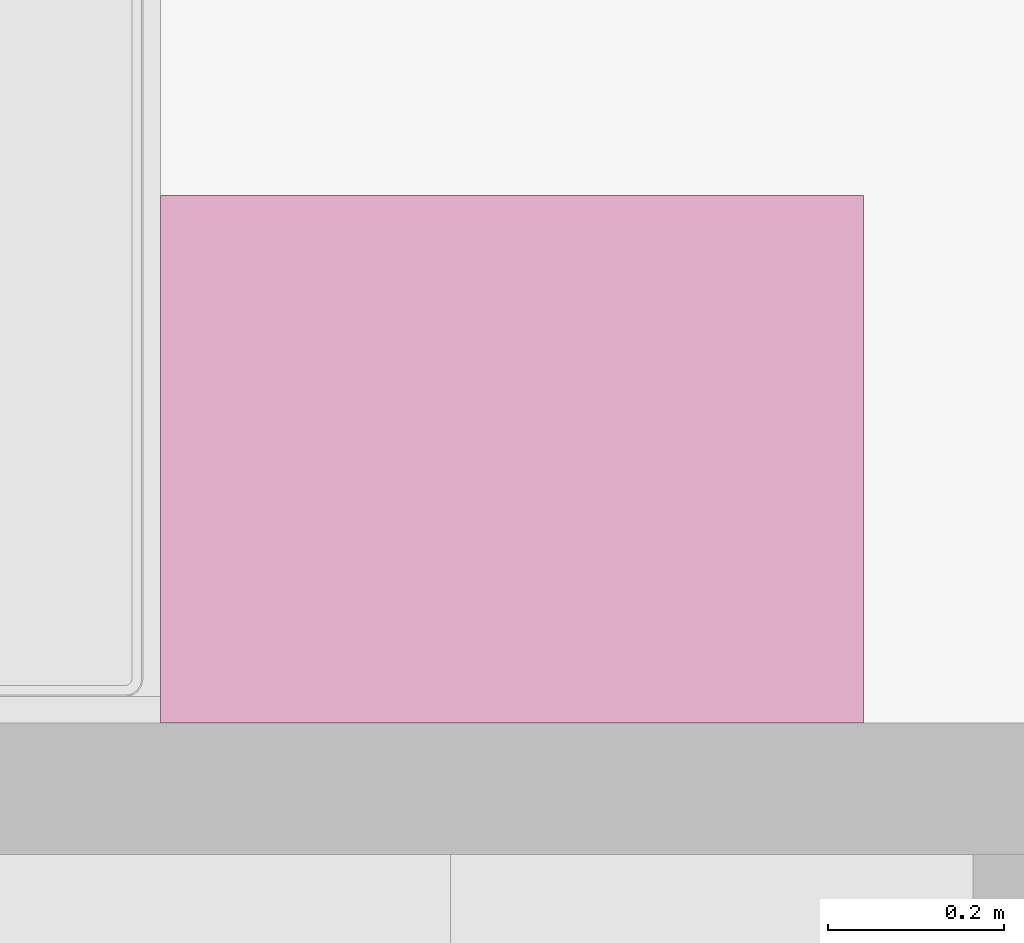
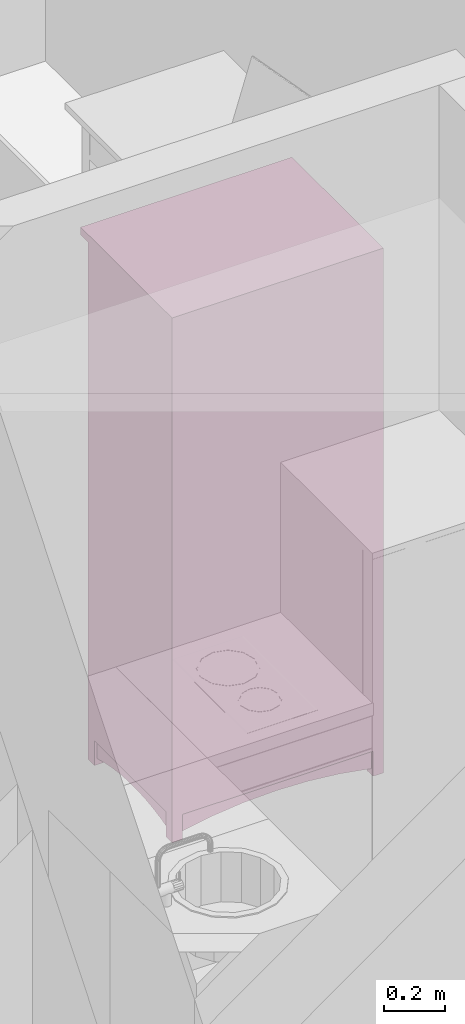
# One storey, part 95 of 165: 1 furnishing.
"""IFC2X3 building model written with IfcOpenShell, lengths in millimetres."""

from ifc_helpers import new_model, entity, si_unit, converted_unit, money_unit, direction, frame, origin_with_axes, place, context, subcontext, project, spatial, faceted_brep, source, transform, mapped, material, material_list, type_object, element, save


model = new_model("IFC2X3")

# Units and contexts
model_context = context("Model", 3, precision=1e-05, world=origin_with_axes(), true_north=direction((0.0, 1.0)))
body_context = subcontext(model_context, "Body", "Model", "MODEL_VIEW")
ifc_project = project(units=[si_unit("LENGTHUNIT", "METRE", prefix="MILLI"), si_unit("AREAUNIT", "SQUARE_METRE"), si_unit("VOLUMEUNIT", "CUBIC_METRE"), converted_unit("PLANEANGLEUNIT", "DEGREE", entity("IfcPlaneAngleMeasure", 0.0174532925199), si_unit("PLANEANGLEUNIT", "RADIAN"), dimensions=[0, 0, 0, 0, 0, 0, 0]), si_unit("SOLIDANGLEUNIT", "STERADIAN"), money_unit("USD"), converted_unit("TIMEUNIT", "Year", entity("IfcTimeMeasure", 31556926.0), si_unit("TIMEUNIT", "SECOND"), dimensions=[0, 0, 0, 0, 0, 0, 0]), si_unit("MASSUNIT", "GRAM"), si_unit("THERMODYNAMICTEMPERATUREUNIT", "DEGREE_CELSIUS"), si_unit("LUMINOUSINTENSITYUNIT", "LUMEN")], contexts=[model_context])

# Site, building, storey
site_placement = place(None, origin_with_axes())
site = spatial("IfcSite", under=ifc_project, at=site_placement, Name="Site", CompositionType="ELEMENT")
building_placement = place(site_placement, origin_with_axes())
building = spatial("IfcBuilding", under=site, at=building_placement, Name="Building", CompositionType="ELEMENT")
storey_placement = place(building_placement, frame((0.0, 0.0, 6300.0), z_axis=(0.0, 0.0, 1.0), x_axis=(1.0, 0.0, 0.0)))
storey = spatial("IfcBuildingStorey", under=building, at=storey_placement, Name="4KORRUS", CompositionType="ELEMENT", Elevation=6300.0)

# Furnishing
ifc_material = material(Name="Background")
ifc_material_list = material_list([ifc_material])
furnishing_element_type = type_object("IfcFurnishingElementType", Name="Cupboard 19")
shared_shape = source(origin_with_axes(), body_context, "Body", "Brep", [
    faceted_brep([(780.0, 600.0, 120.0), (780.0, 600.0, 2050.0), (780.0, 580.0, 2050.0), (780.0, 580.0, 120.0), (20.0, 600.0, 120.0), (20.0, 600.0, 2050.0), (20.0, 580.0, 2050.0), (20.0, 580.0, 120.0)], [[[0, 1, 2, 3]], [[4, 5, 1, 0]], [[1, 5, 6, 2]], [[3, 2, 6, 7]], [[0, 3, 7, 4]], [[7, 6, 5, 4]]]),
    faceted_brep([(0.0, 50.0, 100.0), (0.0, 600.0, 100.0), (20.0, 600.0, 100.0), (20.0, 50.0, 100.0), (0.0, 50.0, 2070.0), (0.0, 600.0, 2070.0), (20.0, 600.0, 2070.0), (20.0, 50.0, 2070.0)], [[[0, 1, 2, 3]], [[0, 4, 5, 1]], [[1, 5, 6, 2]], [[2, 6, 7, 3]], [[3, 7, 4, 0]], [[7, 6, 5, 4]]]),
    faceted_brep([(780.0, 50.0, 100.0), (780.0, 600.0, 100.0), (800.0, 600.0, 100.0), (800.0, 50.0, 100.0), (780.0, 50.0, 2070.0), (780.0, 600.0, 2070.0), (800.0, 600.0, 2070.0), (800.0, 50.0, 2070.0)], [[[0, 1, 2, 3]], [[0, 4, 5, 1]], [[1, 5, 6, 2]], [[2, 6, 7, 3]], [[3, 7, 4, 0]], [[7, 6, 5, 4]]]),
    faceted_brep([(20.0, 50.0, 100.0), (20.0, 600.0, 100.0), (780.0, 600.0, 100.0), (780.0, 50.0, 100.0), (20.0, 50.0, 120.0), (20.0, 600.0, 120.0), (780.0, 600.0, 120.0), (780.0, 50.0, 120.0)], [[[0, 1, 2, 3]], [[0, 4, 5, 1]], [[1, 5, 6, 2]], [[2, 6, 7, 3]], [[3, 7, 4, 0]], [[7, 6, 5, 4]]]),
    faceted_brep([(20.0, 50.0, 2050.0), (20.0, 600.0, 2050.0), (780.0, 600.0, 2050.0), (780.0, 50.0, 2050.0), (20.0, 50.0, 2070.0), (20.0, 600.0, 2070.0), (780.0, 600.0, 2070.0), (780.0, 50.0, 2070.0)], [[[0, 1, 2, 3]], [[0, 4, 5, 1]], [[1, 5, 6, 2]], [[2, 6, 7, 3]], [[3, 7, 4, 0]], [[7, 6, 5, 4]]]),
    faceted_brep([(0.0, 600.0, 2070.0), (0.0, 0.0, 2070.0), (0.0, 0.0, 2100.0), (0.0, 600.0, 2100.0), (800.0, 600.0, 2070.0), (800.0, 0.0, 2070.0), (800.0, 0.0, 2100.0), (800.0, 600.0, 2100.0)], [[[0, 1, 2, 3]], [[0, 4, 5, 1]], [[1, 5, 6, 2]], [[3, 2, 6, 7]], [[4, 0, 3, 7]], [[5, 4, 7, 6]]]),
    faceted_brep([(760.0, 590.0, 25.0), (760.0, 570.0, 25.0), (640.962, 570.0, 45.8), (640.962, 590.0, 45.8), (760.0, 590.0, 100.0), (760.0, 570.0, 100.0), (40.0, 570.0, 100.0), (40.0, 570.0, 25.0), (159.038, 570.0, 45.8), (279.23, 570.0, 58.32), (400.0, 570.0, 62.5), (520.77, 570.0, 58.32), (520.77, 590.0, 58.32), (400.0, 590.0, 62.5), (279.23, 590.0, 58.32), (159.038, 590.0, 45.8), (40.0, 590.0, 25.0), (40.0, 590.0, 100.0)], [[[0, 1, 2, 3]], [[4, 5, 1, 0]], [[1, 5, 6, 7, 8, 9, 10, 11, 2]], [[3, 2, 11, 12]], [[0, 3, 12, 13, 14, 15, 16, 17, 4]], [[17, 6, 5, 4]], [[16, 7, 6, 17]], [[15, 8, 7, 16]], [[14, 9, 8, 15]], [[13, 10, 9, 14]], [[12, 11, 10, 13]]]),
    faceted_brep([(760.0, 80.0, 25.0), (760.0, 60.0, 25.0), (640.962, 60.0, 45.8), (640.962, 80.0, 45.8), (760.0, 80.0, 100.0), (760.0, 60.0, 100.0), (40.0, 60.0, 100.0), (40.0, 60.0, 25.0), (159.038, 60.0, 45.8), (279.23, 60.0, 58.32), (400.0, 60.0, 62.5), (520.77, 60.0, 58.32), (520.77, 80.0, 58.32), (400.0, 80.0, 62.5), (279.23, 80.0, 58.32), (159.038, 80.0, 45.8), (40.0, 80.0, 25.0), (40.0, 80.0, 100.0)], [[[0, 1, 2, 3]], [[4, 5, 1, 0]], [[1, 5, 6, 7, 8, 9, 10, 11, 2]], [[3, 2, 11, 12]], [[0, 3, 12, 13, 14, 15, 16, 17, 4]], [[17, 6, 5, 4]], [[16, 7, 6, 17]], [[15, 8, 7, 16]], [[14, 9, 8, 15]], [[13, 10, 9, 14]], [[12, 11, 10, 13]]]),
    faceted_brep([(790.0, 90.0, 25.0), (770.0, 90.0, 25.0), (770.0, 141.266, 38.072), (790.0, 141.266, 38.072), (790.0, 90.0, 100.0), (770.0, 90.0, 100.0), (770.0, 560.0, 100.0), (770.0, 560.0, 25.0), (770.0, 508.734, 38.072), (770.0, 456.752, 47.92), (770.0, 404.257, 54.508), (770.0, 351.453, 57.808), (770.0, 298.547, 57.808), (770.0, 245.743, 54.508), (770.0, 193.248, 47.92), (790.0, 193.248, 47.92), (790.0, 245.743, 54.508), (790.0, 298.547, 57.808), (790.0, 351.453, 57.808), (790.0, 404.257, 54.508), (790.0, 456.752, 47.92), (790.0, 508.734, 38.072), (790.0, 560.0, 25.0), (790.0, 560.0, 100.0)], [[[0, 1, 2, 3]], [[4, 5, 1, 0]], [[1, 5, 6, 7, 8, 9, 10, 11, 12, 13, 14, 2]], [[3, 2, 14, 15]], [[0, 3, 15, 16, 17, 18, 19, 20, 21, 22, 23, 4]], [[23, 6, 5, 4]], [[22, 7, 6, 23]], [[21, 8, 7, 22]], [[20, 9, 8, 21]], [[19, 10, 9, 20]], [[18, 11, 10, 19]], [[17, 12, 11, 18]], [[16, 13, 12, 17]], [[15, 14, 13, 16]]]),
    faceted_brep([(30.0, 90.0, 25.0), (10.0, 90.0, 25.0), (10.0, 141.266, 38.072), (30.0, 141.266, 38.072), (30.0, 90.0, 100.0), (10.0, 90.0, 100.0), (10.0, 560.0, 100.0), (10.0, 560.0, 25.0), (10.0, 508.734, 38.072), (10.0, 456.752, 47.92), (10.0, 404.257, 54.508), (10.0, 351.453, 57.808), (10.0, 298.547, 57.808), (10.0, 245.743, 54.508), (10.0, 193.248, 47.92), (30.0, 193.248, 47.92), (30.0, 245.743, 54.508), (30.0, 298.547, 57.808), (30.0, 351.453, 57.808), (30.0, 404.257, 54.508), (30.0, 456.752, 47.92), (30.0, 508.734, 38.072), (30.0, 560.0, 25.0), (30.0, 560.0, 100.0)], [[[0, 1, 2, 3]], [[4, 5, 1, 0]], [[1, 5, 6, 7, 8, 9, 10, 11, 12, 13, 14, 2]], [[3, 2, 14, 15]], [[0, 3, 15, 16, 17, 18, 19, 20, 21, 22, 23, 4]], [[23, 6, 5, 4]], [[22, 7, 6, 23]], [[21, 8, 7, 22]], [[20, 9, 8, 21]], [[19, 10, 9, 20]], [[18, 11, 10, 19]], [[17, 12, 11, 18]], [[16, 13, 12, 17]], [[15, 14, 13, 16]]]),
    faceted_brep([(760.0, 560.0, 0.0), (760.0, 560.0, 100.0), (760.0, 600.0, 100.0), (760.0, 600.0, 0.0), (800.0, 560.0, 0.0), (800.0, 560.0, 100.0), (800.0, 600.0, 100.0), (800.0, 600.0, 0.0)], [[[0, 1, 2, 3]], [[4, 5, 1, 0]], [[1, 5, 6, 2]], [[3, 2, 6, 7]], [[0, 3, 7, 4]], [[7, 6, 5, 4]]]),
    faceted_brep([(0.0, 560.0, 0.0), (0.0, 560.0, 100.0), (0.0, 600.0, 100.0), (0.0, 600.0, 0.0), (40.0, 560.0, 0.0), (40.0, 560.0, 100.0), (40.0, 600.0, 100.0), (40.0, 600.0, 0.0)], [[[0, 1, 2, 3]], [[4, 5, 1, 0]], [[1, 5, 6, 2]], [[3, 2, 6, 7]], [[0, 3, 7, 4]], [[7, 6, 5, 4]]]),
    faceted_brep([(760.0, 50.0, 0.0), (760.0, 50.0, 100.0), (760.0, 90.0, 100.0), (760.0, 90.0, 0.0), (800.0, 50.0, 0.0), (800.0, 50.0, 100.0), (800.0, 90.0, 100.0), (800.0, 90.0, 0.0)], [[[0, 1, 2, 3]], [[4, 5, 1, 0]], [[1, 5, 6, 2]], [[3, 2, 6, 7]], [[0, 3, 7, 4]], [[7, 6, 5, 4]]]),
    faceted_brep([(0.0, 50.0, 0.0), (0.0, 50.0, 100.0), (0.0, 90.0, 100.0), (0.0, 90.0, 0.0), (40.0, 50.0, 0.0), (40.0, 50.0, 100.0), (40.0, 90.0, 100.0), (40.0, 90.0, 0.0)], [[[0, 1, 2, 3]], [[4, 5, 1, 0]], [[1, 5, 6, 2]], [[3, 2, 6, 7]], [[0, 3, 7, 4]], [[7, 6, 5, 4]]]),
    faceted_brep([(780.0, 580.0, 587.5), (780.0, 580.0, 607.5), (780.0, 50.0, 607.5), (780.0, 50.0, 587.5), (20.0, 580.0, 587.5), (20.0, 580.0, 607.5), (20.0, 50.0, 607.5), (20.0, 50.0, 587.5)], [[[0, 1, 2, 3]], [[4, 5, 1, 0]], [[1, 5, 6, 2]], [[3, 2, 6, 7]], [[0, 3, 7, 4]], [[7, 6, 5, 4]]]),
    faceted_brep([(780.0, 580.0, 1075.0), (780.0, 580.0, 1095.0), (780.0, 50.0, 1095.0), (780.0, 50.0, 1075.0), (20.0, 580.0, 1075.0), (20.0, 580.0, 1095.0), (20.0, 50.0, 1095.0), (20.0, 50.0, 1075.0)], [[[0, 1, 2, 3]], [[4, 5, 1, 0]], [[1, 5, 6, 2]], [[3, 2, 6, 7]], [[0, 3, 7, 4]], [[7, 6, 5, 4]]]),
    faceted_brep([(780.0, 580.0, 1562.5), (780.0, 580.0, 1582.5), (780.0, 50.0, 1582.5), (780.0, 50.0, 1562.5), (20.0, 580.0, 1562.5), (20.0, 580.0, 1582.5), (20.0, 50.0, 1582.5), (20.0, 50.0, 1562.5)], [[[0, 1, 2, 3]], [[4, 5, 1, 0]], [[1, 5, 6, 2]], [[3, 2, 6, 7]], [[0, 3, 7, 4]], [[7, 6, 5, 4]]]),
    faceted_brep([(789.5, 50.0, 110.5), (400.5, 50.0, 110.5), (400.5, 50.0, 2059.5), (789.5, 50.0, 2059.5), (789.5, 40.0, 110.5), (400.5, 40.0, 110.5), (400.5, 40.0, 2059.5), (789.5, 40.0, 2059.5), (779.5, 30.0, 120.5), (410.5, 30.0, 120.5), (410.5, 30.0, 2049.5), (779.5, 30.0, 2049.5)], [[[0, 1, 2, 3]], [[0, 4, 5, 1]], [[1, 5, 6, 2]], [[2, 6, 7, 3]], [[3, 7, 4, 0]], [[4, 8, 9, 5]], [[5, 9, 10, 6]], [[6, 10, 11, 7]], [[7, 11, 8, 4]], [[10, 9, 8, 11]]]),
    faceted_brep([(399.5, 50.0, 110.5), (10.5, 50.0, 110.5), (10.5, 50.0, 2059.5), (399.5, 50.0, 2059.5), (399.5, 40.0, 110.5), (10.5, 40.0, 110.5), (10.5, 40.0, 2059.5), (399.5, 40.0, 2059.5), (389.5, 30.0, 120.5), (20.5, 30.0, 120.5), (20.5, 30.0, 2049.5), (389.5, 30.0, 2049.5)], [[[0, 1, 2, 3]], [[0, 4, 5, 1]], [[1, 5, 6, 2]], [[2, 6, 7, 3]], [[3, 7, 4, 0]], [[4, 8, 9, 5]], [[5, 9, 10, 6]], [[6, 10, 11, 7]], [[7, 11, 8, 4]], [[10, 9, 8, 11]]]),
    faceted_brep([(339.608, 30.0, 954.0), (338.0, 30.0, 960.0), (339.608, 30.0, 966.0), (344.0, 30.0, 970.392), (350.0, 30.0, 972.0), (356.0, 30.0, 970.392), (360.392, 30.0, 966.0), (362.0, 30.0, 960.0), (360.392, 30.0, 954.0), (356.0, 30.0, 949.608), (350.0, 30.0, 948.0), (344.0, 30.0, 949.608), (339.608, 5.0, 954.0), (338.0, 5.0, 960.0), (339.608, 5.0, 966.0), (344.0, 5.0, 970.392), (350.0, 5.0, 972.0), (356.0, 5.0, 970.392), (360.392, 5.0, 966.0), (362.0, 5.0, 960.0), (360.392, 5.0, 954.0), (356.0, 5.0, 949.608), (350.0, 5.0, 948.0), (344.0, 5.0, 949.608)], [[[0, 1, 2, 3, 4, 5, 6, 7, 8, 9, 10, 11]], [[0, 12, 13, 1]], [[1, 13, 14, 2]], [[2, 14, 15, 3]], [[3, 15, 16, 4]], [[4, 16, 17, 5]], [[5, 17, 18, 6]], [[6, 18, 19, 7]], [[7, 19, 20, 8]], [[8, 20, 21, 9]], [[9, 21, 22, 10]], [[10, 22, 23, 11]], [[11, 23, 12, 0]], [[12, 23, 22, 21, 20, 19, 18, 17, 16, 15, 14, 13]]]),
    faceted_brep([(460.392, 30.0, 954.0), (456.0, 30.0, 949.608), (450.0, 30.0, 948.0), (444.0, 30.0, 949.608), (439.608, 30.0, 954.0), (438.0, 30.0, 960.0), (439.608, 30.0, 966.0), (444.0, 30.0, 970.392), (450.0, 30.0, 972.0), (456.0, 30.0, 970.392), (460.392, 30.0, 966.0), (462.0, 30.0, 960.0), (460.392, 5.0, 954.0), (456.0, 5.0, 949.608), (450.0, 5.0, 948.0), (444.0, 5.0, 949.608), (439.608, 5.0, 954.0), (438.0, 5.0, 960.0), (439.608, 5.0, 966.0), (444.0, 5.0, 970.392), (450.0, 5.0, 972.0), (456.0, 5.0, 970.392), (460.392, 5.0, 966.0), (462.0, 5.0, 960.0)], [[[0, 1, 2, 3, 4, 5, 6, 7, 8, 9, 10, 11]], [[1, 0, 12, 13]], [[2, 1, 13, 14]], [[3, 2, 14, 15]], [[4, 3, 15, 16]], [[5, 4, 16, 17]], [[6, 5, 17, 18]], [[7, 6, 18, 19]], [[8, 7, 19, 20]], [[9, 8, 20, 21]], [[10, 9, 21, 22]], [[11, 10, 22, 23]], [[0, 11, 23, 12]], [[12, 23, 22, 21, 20, 19, 18, 17, 16, 15, 14, 13]]]),
])
furnishing_placement = place(storey_placement, frame((-28290.2967033, -8616.37850445, 0.0), z_axis=(0.0, 0.0, 1.0), x_axis=(-1.0, 0.0, 0.0)))
element("IfcFurnishingElement", 1, at=furnishing_placement, inside=storey, type_object=furnishing_element_type, material=ifc_material_list, Name="FU - 014", context=body_context, shape_type="MappedRepresentation", body=[
    mapped(shared_shape, transform((0.0, 0.0, 0.0))),
])

save(model, "model.ifc")
